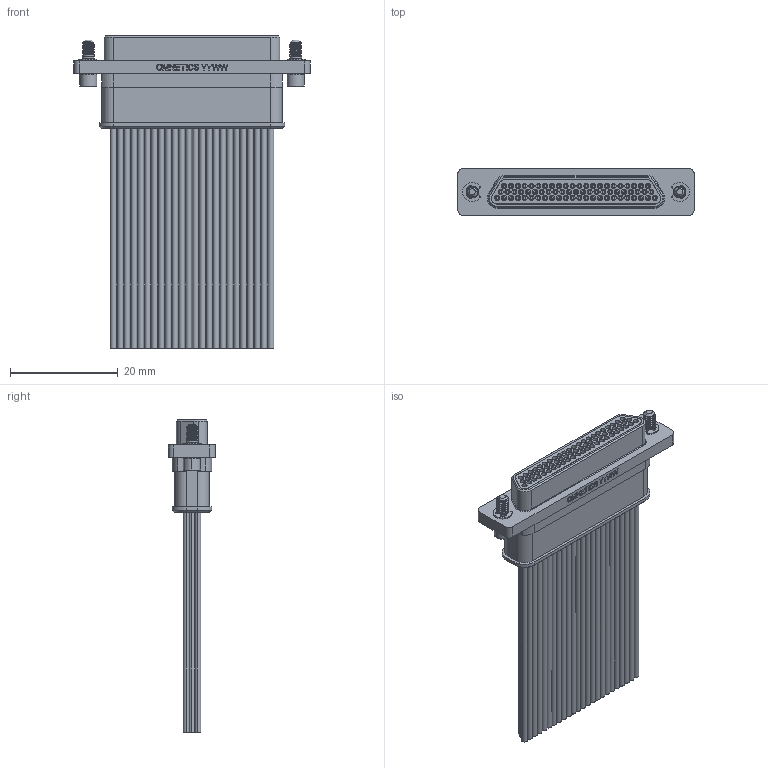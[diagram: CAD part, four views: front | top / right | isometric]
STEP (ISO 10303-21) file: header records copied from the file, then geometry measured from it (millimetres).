
FILE_DESCRIPTION (( 'STEP AP214' ), '1' );
FILE_NAME ('A98181-069 REV A.STEP', '2019-03-15T21:24:13', ( '' ), ( '' ), 'SwSTEP 2.0', 'SolidWorks 2018', '' );
FILE_SCHEMA (( 'AUTOMOTIVE_DESIGN' ));
Length unit declared in the file: inch
Products named in the file (1): A98181-069 REV 1
Bounding box: 43.81 x 8.72 x 57.94 mm (x, y, z)
Volume: 5576.5 mm3; surface area: 16715.9 mm2
Topology: 1 solids, 1 shells, 1512 faces, 3312 edges, 2096 vertices
Faces by surface type: cylinder 793, plane 491, cone 163, bspline 60, torus 5
Entity records: 45927 total; most frequent: CARTESIAN_POINT 11684, DIRECTION 7667, ORIENTED_EDGE 6612, EDGE_CURVE 3306, AXIS2_PLACEMENT_3D 3073, VERTEX_POINT 2096, EDGE_LOOP 1824, CIRCLE 1620
